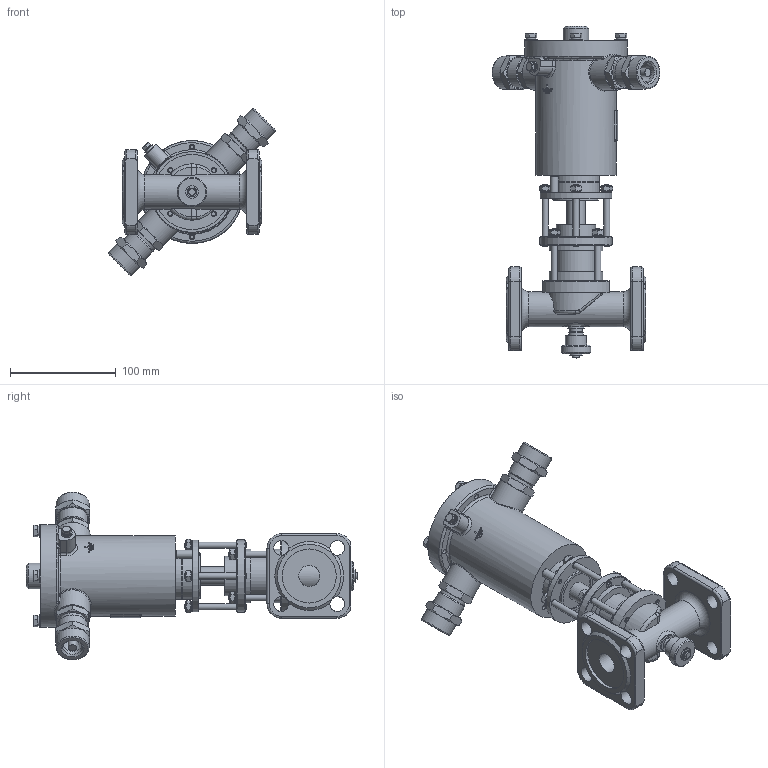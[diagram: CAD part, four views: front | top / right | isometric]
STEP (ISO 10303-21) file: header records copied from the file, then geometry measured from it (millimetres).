
FILE_DESCRIPTION(('STEP AP203'), '1');
FILE_NAME('ÑÅÍÑ DN20PN25-Â-200Ñ-ÑÂ.stp', '2018-09-19T08:48:31', ('Îðëîâ Å.Â.'), ('ÎÎÎ ÍÏÏ Ñåíñîð'), 'ASCON STEP Converter 1.3', 'Kompas 3D', '');
FILE_SCHEMA(('CONFIG_CONTROL_DESIGN','SUPPORT_RESOURCE_SCHEMA'));
Length unit declared in the file: millimetre
Products named in the file (1): 62
Bounding box: 158.26 x 313.5 x 158.26 mm (x, y, z)
Volume: 729028.6 mm3; surface area: 244128 mm2
Topology: 3 solids, 19 shells, 2095 faces, 5495 edges, 3572 vertices
Faces by surface type: cylinder 1055, plane 791, cone 158, torus 40, bspline 35, extrusion 16
Full cylindrical faces by diameter (mm): 2.459 x4, 4 x8, 4.134 x1, 4.5 x2, 4.917 x4, 5 x6, 5.1 x1, 6 x28, 6.1 x1, 6.3 x2, 6.4 x1, 6.5 x15, 7 x1, 8 x7, 9 x1, 10 x3, 11.5 x1, 12 x5, 12.376 x1, 13 x2, 14 x9, 15 x1, 16 x1, 18 x1, 18.632 x2, 20 x6, 20.5 x1, 22 x2, 22.376 x2, 22.5 x1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
Entity records: 82000 total; most frequent: CARTESIAN_POINT 29016, DIRECTION 11494, ORIENTED_EDGE 10966, EDGE_CURVE 5483, AXIS2_PLACEMENT_3D 4450, VERTEX_POINT 3572, VECTOR 2594, LINE 2578
